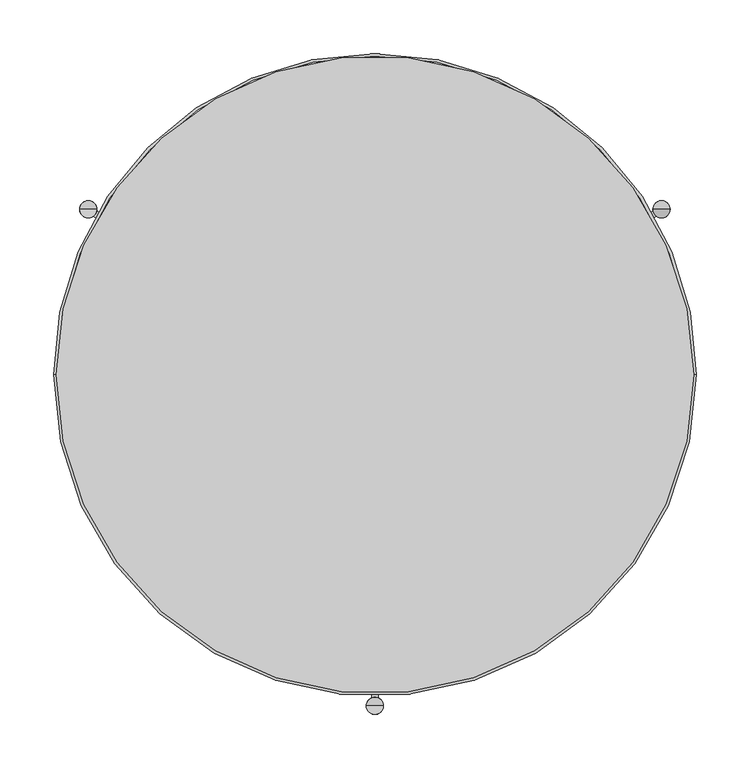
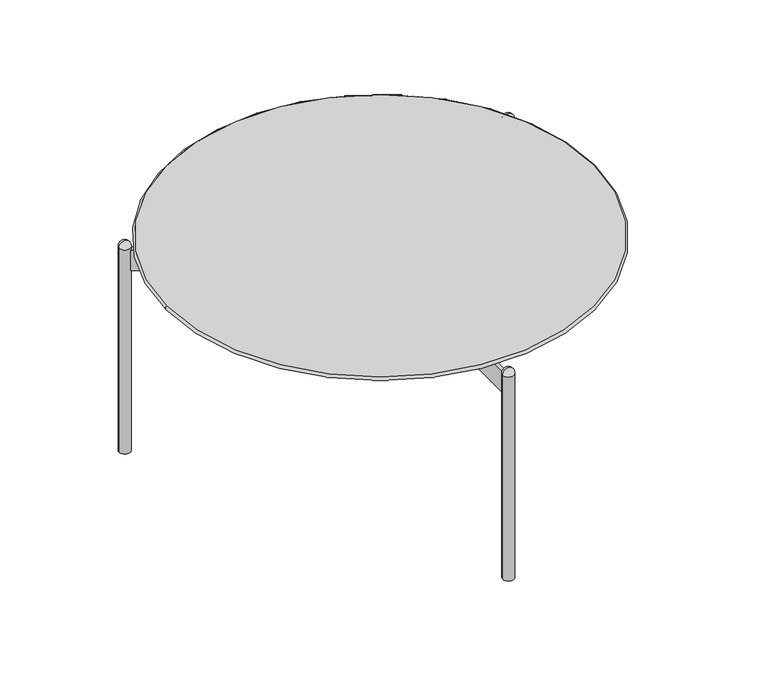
"""IFC4 building model written with IfcOpenShell, lengths in millimetres: furniture geometry, ROUND TABLE_H=31 : EI131B050060A_L."""

from ifc_helpers import new_model, si_unit, point, frame, frame_2d, origin, origin_with_axes, origin_2d, place, context, project, spatial, polyline, circle_curve, ellipse_curve, trimmed, segment, composite_curve, outline, extrude, source, transform, mapped, element, save
from ifc_brep_helpers import plane_surface, revolved_surface, advanced_brep


def furniture_d338b52c(model_context):
    return source(origin(), model_context, "Body", "SolidModel", [
        advanced_brep(
        [(-297.5, 0.0, 316.6939464), (297.5, 0.0, 316.6939464), (271.7931495, 0.0, 297.6939464), (-271.7931495, 0.0, 297.6939464), (-298.6736789, 0.0, 311.9865774), (298.6736789, 0.0, 311.9865774), (300.0, 0.0, 314.1939714), (-300.0, 0.0, 314.1939716)],
        [
            (0, 1, circle_curve(frame((0.0, 0.0, 316.6939464), z_axis=(0.0, 0.0, 1.0), x_axis=(-1.0, 0.0, 0.0)), 297.5)),
            (1, 0, circle_curve(frame((0.0, 0.0, 316.6939464), z_axis=(0.0, 0.0, 1.0), x_axis=(1.0, 0.0, 0.0)), 297.5)),
            (2, 3, circle_curve(frame((0.0, 0.0, 297.6939464), z_axis=(0.0, 0.0, -1.0), x_axis=(-1.0, 0.0, 0.0)), 271.7931495)),
            (3, 2, circle_curve(frame((0.0, 0.0, 297.6939464), z_axis=(0.0, 0.0, -1.0), x_axis=(1.0, 0.0, 0.0)), 271.7931495)),
            (4, 5, circle_curve(frame((0.0, 0.0, 311.9865774), z_axis=(0.0, 0.0, 1.0), x_axis=(-1.0, 0.0, 0.0)), 298.6736789)),
            (5, 6, circle_curve(frame((297.5, 0.0, 314.1939464), z_axis=(0.0, -1.0, 0.0), x_axis=(-1.0, 0.0, 0.0)), 2.5)),
            (6, 1, circle_curve(frame((297.5, 0.0, 314.1939464), z_axis=(0.0, -1.0, 0.0), x_axis=(-1.0, 0.0, 0.0)), 2.5)),
            (0, 7, circle_curve(frame((-297.5, 0.0, 314.1939464), z_axis=(0.0, -1.0, 0.0), x_axis=(1.0, 0.0, 0.0)), 2.5)),
            (7, 4, circle_curve(frame((-297.5, 0.0, 314.1939464), z_axis=(0.0, -1.0, 0.0), x_axis=(1.0, 0.0, 0.0)), 2.5)),
            (4, 3),
            (2, 5),
            (5, 4, circle_curve(frame((0.0, 0.0, 311.9865774), z_axis=(0.0, 0.0, 1.0), x_axis=(1.0, 0.0, 0.0)), 298.6736789)),
        ],
        [
            plane_surface(frame((300.0, 0.0, 316.6939464), z_axis=(0.0, 0.0, 1.0), x_axis=(0.0, 1.0, 0.0))),
            plane_surface(frame((300.0, 0.0, 297.6939464), z_axis=(0.0, 0.0, -1.0), x_axis=(0.0, -1.0, 0.0))),
            revolved_surface(trimmed(ellipse_curve(frame((-297.5, 0.0, 314.1939464), z_axis=(0.0, 1.0, 0.0), x_axis=(1.0, 0.0, 0.0)), 2.5, 2.5), [point((-298.6736789, 0.0, 311.9865774))], [point((-297.5, 0.0, 316.6939464))], True, "CARTESIAN"), (0.0, 0.0, 297.6939464), (0.0, 0.0, 1.0)),
            revolved_surface(polyline([(-271.7931495, 0.0, 297.6939464), (-298.6736789, 0.0, 311.9865774)]), (0.0, 0.0, 297.6939464), (0.0, 0.0, 1.0)),
            revolved_surface(trimmed(ellipse_curve(frame((297.5, 0.0, 314.1939464), z_axis=(0.0, -1.0, 0.0), x_axis=(-1.0, 0.0, 0.0)), 2.5, 2.5), [point((298.6736789, 0.0, 311.9865774))], [point((297.5, 0.0, 316.6939464))], True, "CARTESIAN"), (0.0, 0.0, 297.6939464), (0.0, 0.0, 1.0)),
            revolved_surface(polyline([(271.7931495, 0.0, 297.6939464), (298.6736789, 0.0, 311.9865774)]), (0.0, 0.0, 297.6939464), (0.0, 0.0, 1.0)),
        ],
        [
            (0, [[1, 2]]),
            (1, [[3, 4]]),
            (2, [[5, 6, 7, -1, 8, 9]]),
            (3, [[-5, 10, -3, 11]]),
            (4, [[12, -9, -8, -2, -7, -6]]),
            (5, [[-11, -4, -10, -12]]),
        ],
    ),
        extrude(outline(composite_curve([segment(polyline([(-19.7129166, 7.9278768), (-262.7443334, 148.2421307)]), True, "CONTINUOUS"), segment(trimmed(circle_curve(frame_2d((-267.6, 154.6)), 8.0), [point((-262.7443334, 148.2421307))], [point((-259.6895089, 153.4066303))], True, "CARTESIAN"), True, "CONTINUOUS"), segment(polyline([(-259.6895089, 153.4066303), (-16.7129166, 13.1240293), (-19.7129166, 7.9278768)]), True, "CONTINUOUS")], self_intersect=False)), frame((0.0, 0.0, 267.6939464), z_axis=(0.0, 0.0, 1.0), x_axis=(1.0, 0.0, 0.0)), (0.0, 0.0, 1.0), 30.0),
        extrude(outline(composite_curve([segment(polyline([(19.7314855, 7.9171561), (16.7314855, 13.1133085), (259.6925075, 153.38692)]), True, "CONTINUOUS"), segment(trimmed(circle_curve(frame_2d((267.6, 154.6)), 8.0), [point((259.6925075, 153.38692))], [point((262.7603454, 148.2299338))], True, "CARTESIAN"), True, "CONTINUOUS"), segment(polyline([(262.7603454, 148.2299338), (19.7314855, 7.9171561)]), True, "CONTINUOUS")], self_intersect=False)), frame((0.0, 0.0, 267.6939464), z_axis=(0.0, 0.0, 1.0), x_axis=(1.0, 0.0, 0.0)), (0.0, 0.0, 1.0), 30.0),
        extrude(outline(composite_curve([segment(polyline([(3.0, -21.0411853), (3.0, -301.5838015)]), True, "CONTINUOUS"), segment(trimmed(circle_curve(frame_2d((0.0, -309.0)), 8.0), [point((3.0, -301.5838015))], [point((-3.0, -301.5838015))], True, "CARTESIAN"), True, "CONTINUOUS"), segment(polyline([(-3.0, -301.5838015), (-3.0, -21.0411853), (3.0, -21.0411853)]), True, "CONTINUOUS")], self_intersect=False)), frame((0.0, 0.0, 267.6939464), z_axis=(0.0, 0.0, 1.0), x_axis=(1.0, 0.0, 0.0)), (0.0, 0.0, 1.0), 30.0),
        advanced_brep(
        [(267.6, 154.6, 309.1666667), (259.6, 154.6, 301.1666667), (275.6, 154.6, 301.1666667), (267.6, 154.6, 301.1666667)],
        [
            (0, 1, circle_curve(frame((267.6, 154.6, 301.1666667), z_axis=(0.0, -1.0, 0.0), x_axis=(1.0, 0.0, 0.0)), 8.0)),
            (1, 2, circle_curve(frame((267.6, 154.6, 301.1666667), z_axis=(0.0, 0.0, 1.0), x_axis=(-1.0, 0.0, 0.0)), 8.0)),
            (2, 0, circle_curve(frame((267.6, 154.6, 301.1666667), z_axis=(0.0, -1.0, 0.0), x_axis=(-1.0, 0.0, 0.0)), 8.0)),
            (2, 1, circle_curve(frame((267.6, 154.6, 301.1666667), z_axis=(0.0, 0.0, 1.0), x_axis=(-1.0, 0.0, 0.0)), 8.0)),
            (1, 3),
            (3, 2),
        ],
        [
            revolved_surface(trimmed(ellipse_curve(frame((267.6, 154.6, 301.1666667), z_axis=(0.0, 1.0, 0.0), x_axis=(1.0, 0.0, 0.0)), 8.0, 8.0), [point((259.6, 154.6, 301.1666667))], [point((267.6, 154.6, 309.1666667))], True, "CARTESIAN"), (267.6, 154.6, 2498.4), (0.0, 0.0, 1.0)),
            plane_surface(frame((267.6, 154.6, 301.1666667), z_axis=(0.0, 0.0, -1.0), x_axis=(-1.0, 0.0, 0.0))),
        ],
        [
            (0, [[1, 2, 3]]),
            (0, [[-3, 4, -1]]),
            (1, [[-2, 5, 6]]),
            (1, [[-4, -6, -5]]),
        ],
    ),
        advanced_brep(
        [(267.6, 154.6, 309.1666667), (259.6, 154.6, 301.1666667), (275.6, 154.6, 301.1666667), (267.6, 154.6, 301.1666667)],
        [
            (0, 1, circle_curve(frame((267.6, 154.6, 301.1666667), z_axis=(0.0, -1.0, 0.0), x_axis=(1.0, 0.0, 0.0)), 8.0)),
            (1, 2, circle_curve(frame((267.6, 154.6, 301.1666667), z_axis=(0.0, 0.0, 1.0), x_axis=(-1.0, 0.0, 0.0)), 8.0)),
            (2, 0, circle_curve(frame((267.6, 154.6, 301.1666667), z_axis=(0.0, -1.0, 0.0), x_axis=(-1.0, 0.0, 0.0)), 8.0)),
            (2, 1, circle_curve(frame((267.6, 154.6, 301.1666667), z_axis=(0.0, 0.0, 1.0), x_axis=(-1.0, 0.0, 0.0)), 8.0)),
            (1, 3),
            (3, 2),
        ],
        [
            revolved_surface(trimmed(ellipse_curve(frame((267.6, 154.6, 301.1666667), z_axis=(0.0, 1.0, 0.0), x_axis=(1.0, 0.0, 0.0)), 8.0, 8.0), [point((259.6, 154.6, 301.1666667))], [point((267.6, 154.6, 309.1666667))], True, "CARTESIAN"), (267.6, 154.6, 2498.4), (0.0, 0.0, 1.0)),
            plane_surface(frame((267.6, 154.6, 301.1666667), z_axis=(0.0, 0.0, -1.0), x_axis=(-1.0, 0.0, 0.0))),
        ],
        [
            (0, [[1, 2, 3]]),
            (0, [[-3, 4, -1]]),
            (1, [[-2, 5, 6]]),
            (1, [[-4, -6, -5]]),
        ],
    ),
        advanced_brep(
        [(-275.6, 154.6, 301.1666667), (-259.6, 154.6, 301.1666667), (-267.6, 154.6, 309.1666667), (-267.6, 154.6, 301.1666667)],
        [
            (0, 1, circle_curve(frame((-267.6, 154.6, 301.1666667), z_axis=(0.0, 0.0, 1.0), x_axis=(1.0, 0.0, 0.0)), 8.0)),
            (1, 2, circle_curve(frame((-267.6, 154.6, 301.1666667), z_axis=(0.0, -1.0, 0.0), x_axis=(-1.0, 0.0, 0.0)), 8.0)),
            (2, 0, circle_curve(frame((-267.6, 154.6, 301.1666667), z_axis=(0.0, -1.0, 0.0), x_axis=(1.0, 0.0, 0.0)), 8.0)),
            (1, 0, circle_curve(frame((-267.6, 154.6, 301.1666667), z_axis=(0.0, 0.0, 1.0), x_axis=(1.0, 0.0, 0.0)), 8.0)),
            (3, 1),
            (0, 3),
        ],
        [
            revolved_surface(trimmed(ellipse_curve(frame((-267.6, 154.6, 301.1666667), z_axis=(0.0, 1.0, 0.0), x_axis=(-1.0, 0.0, 0.0)), 8.0, 8.0), [point((-267.6, 154.6, 309.1666667))], [point((-259.6, 154.6, 301.1666667))], True, "CARTESIAN"), (-267.6, 154.6, 2498.4), (0.0, 0.0, -1.0)),
            plane_surface(frame((-267.6, 154.6, 301.1666667), z_axis=(0.0, 0.0, -1.0), x_axis=(1.0, 0.0, 0.0))),
        ],
        [
            (0, [[1, 2, 3]]),
            (0, [[4, -3, -2]]),
            (1, [[5, -1, 6]]),
            (1, [[-6, -4, -5]]),
        ],
    ),
        advanced_brep(
        [(-8.025371, -309.0, 301.1666667), (7.974629, -309.0, 301.1666667), (-0.025371, -309.0, 309.1666667), (-0.025371, -309.0, 301.1666667)],
        [
            (0, 1, circle_curve(frame((-0.025371, -309.0, 301.1666667), z_axis=(0.0, 0.0, 1.0), x_axis=(1.0, 0.0, 0.0)), 8.0)),
            (1, 2, circle_curve(frame((-0.025371, -309.0, 301.1666667), z_axis=(0.0, -1.0, 0.0), x_axis=(-1.0, 0.0, 0.0)), 8.0)),
            (2, 0, circle_curve(frame((-0.025371, -309.0, 301.1666667), z_axis=(0.0, -1.0, 0.0), x_axis=(1.0, 0.0, 0.0)), 8.0)),
            (1, 0, circle_curve(frame((-0.025371, -309.0, 301.1666667), z_axis=(0.0, 0.0, 1.0), x_axis=(1.0, 0.0, 0.0)), 8.0)),
            (3, 1),
            (0, 3),
        ],
        [
            revolved_surface(trimmed(ellipse_curve(frame((-0.025371, -309.0, 301.1666667), z_axis=(0.0, 1.0, 0.0), x_axis=(-1.0, 0.0, 0.0)), 8.0, 8.0), [point((-0.025371, -309.0, 309.1666667))], [point((7.974629, -309.0, 301.1666667))], True, "CARTESIAN"), (-0.025371, -309.0, 2498.4), (0.0, 0.0, -1.0)),
            plane_surface(frame((-0.025371, -309.0, 301.1666667), z_axis=(0.0, 0.0, -1.0), x_axis=(1.0, 0.0, 0.0))),
        ],
        [
            (0, [[1, 2, 3]]),
            (0, [[4, -3, -2]]),
            (1, [[5, -1, 6]]),
            (1, [[-6, -4, -5]]),
        ],
    ),
        extrude(outline(composite_curve([segment(trimmed(circle_curve(origin_2d(), 23.0), [point((-23.0, 0.0))], [point((23.0, 0.0))], False, "CARTESIAN"), True, "CONTINUOUS"), segment(trimmed(circle_curve(origin_2d(), 23.0), [point((23.0, 0.0))], [point((-23.0, 0.0))], False, "CARTESIAN"), True, "CONTINUOUS")], self_intersect=False)), frame((0.0, 0.0, 267.6939464), z_axis=(0.0, 0.0, 1.0), x_axis=(1.0, 0.0, 0.0)), (0.0, 0.0, 1.0), 30.0),
        extrude(outline(composite_curve([segment(trimmed(circle_curve(frame_2d((-267.6, 154.6)), 8.0), [point((-275.6, 154.6))], [point((-259.6, 154.6))], False, "CARTESIAN"), True, "CONTINUOUS"), segment(trimmed(circle_curve(frame_2d((-267.6, 154.6)), 8.0), [point((-259.6, 154.6))], [point((-275.6, 154.6))], False, "CARTESIAN"), True, "CONTINUOUS")], self_intersect=False)), origin_with_axes(), (0.0, 0.0, 1.0), 301.1666667),
        extrude(outline(composite_curve([segment(trimmed(circle_curve(frame_2d((267.6, 154.6)), 8.0), [point((259.6, 154.6))], [point((275.6, 154.6))], False, "CARTESIAN"), True, "CONTINUOUS"), segment(trimmed(circle_curve(frame_2d((267.6, 154.6)), 8.0), [point((275.6, 154.6))], [point((259.6, 154.6))], False, "CARTESIAN"), True, "CONTINUOUS")], self_intersect=False)), origin_with_axes(), (0.0, 0.0, 1.0), 301.1666667),
        extrude(outline(composite_curve([segment(trimmed(circle_curve(frame_2d((0.0, -309.0)), 8.0), [point((-8.0, -309.0))], [point((8.0, -309.0))], False, "CARTESIAN"), True, "CONTINUOUS"), segment(trimmed(circle_curve(frame_2d((0.0, -309.0)), 8.0), [point((8.0, -309.0))], [point((-8.0, -309.0))], False, "CARTESIAN"), True, "CONTINUOUS")], self_intersect=False)), origin_with_axes(), (0.0, 0.0, 1.0), 301.1666667),
    ])


if __name__ == "__main__":
    model = new_model("IFC4")
    model_context = context("Model", 3, world=origin())
    ifc_project = project(units=[si_unit("LENGTHUNIT", "METRE", prefix="MILLI")], contexts=[model_context])
    site = spatial("IfcSite", under=ifc_project)
    building = spatial("IfcBuilding", under=site)
    placement = place(None, origin())
    furniture_shape = furniture_d338b52c(model_context)
    element("IfcFurniture", 1, ObjectType="ROUND TABLE_H=31 : EI131B050060A_L", at=placement, inside=building, context=model_context, shape_type="MappedRepresentation", body=[
        mapped(furniture_shape, transform((0.0, 0.0, 0.0), x_axis=(1.0, 0.0, 0.0), y_axis=(0.0, 1.0, 0.0), z_axis=(0.0, 0.0, 1.0))),
    ])
    save(model, "model.ifc")
